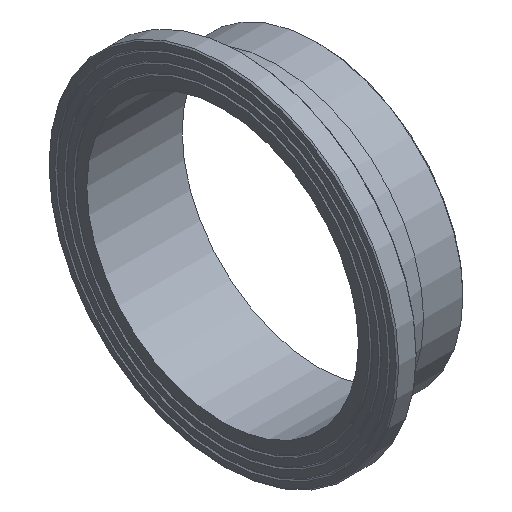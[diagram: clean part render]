
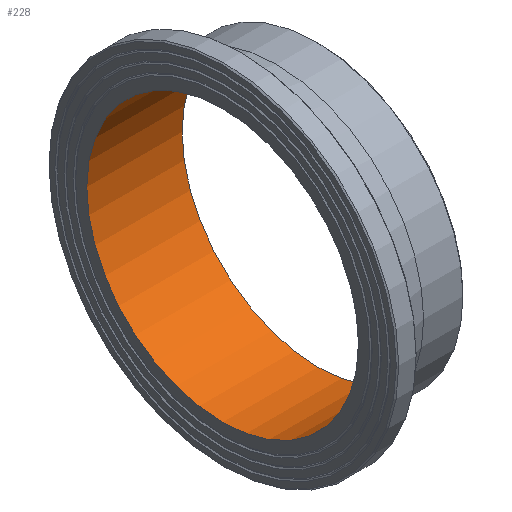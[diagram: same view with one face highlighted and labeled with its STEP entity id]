
A CAD part, isometric view. The second image highlights one B-rep face of the part: STEP entity #228.
In plain terms, the highlighted cylindrical face has radius 163.9 mm (diameter 327.8 mm), a full revolution.
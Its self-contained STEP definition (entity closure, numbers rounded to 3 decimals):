
#33=CYLINDRICAL_SURFACE('',#274,163.9);
#50=ORIENTED_EDGE('',*,*,#79,.F.);
#51=ORIENTED_EDGE('',*,*,#76,.T.);
#76=EDGE_CURVE('',#96,#96,#116,.T.);
#79=EDGE_CURVE('',#99,#99,#119,.T.);
#96=VERTEX_POINT('',#383);
#99=VERTEX_POINT('',#390);
#116=CIRCLE('',#257,163.9);
#119=CIRCLE('',#261,163.9);
#150=EDGE_LOOP('',(#50));
#151=EDGE_LOOP('',(#51));
#190=FACE_BOUND('',#150,.T.);
#191=FACE_BOUND('',#151,.T.);
#228=ADVANCED_FACE('',(#190,#191),#33,.F.);
#257=AXIS2_PLACEMENT_3D('',#382,#303,#304);
#261=AXIS2_PLACEMENT_3D('',#389,#311,#312);
#274=AXIS2_PLACEMENT_3D('',#410,#337,#338);
#303=DIRECTION('',(-1.,0.,0.));
#304=DIRECTION('',(0.,0.,1.));
#311=DIRECTION('',(-1.,0.,0.));
#312=DIRECTION('',(0.,0.,1.));
#337=DIRECTION('',(-1.,0.,0.));
#338=DIRECTION('',(0.,0.,1.));
#382=CARTESIAN_POINT('',(0.,0.,0.));
#383=CARTESIAN_POINT('',(0.,0.,163.9));
#389=CARTESIAN_POINT('',(115.,0.,0.));
#390=CARTESIAN_POINT('',(115.,0.,163.9));
#410=CARTESIAN_POINT('',(60.,0.,0.));
